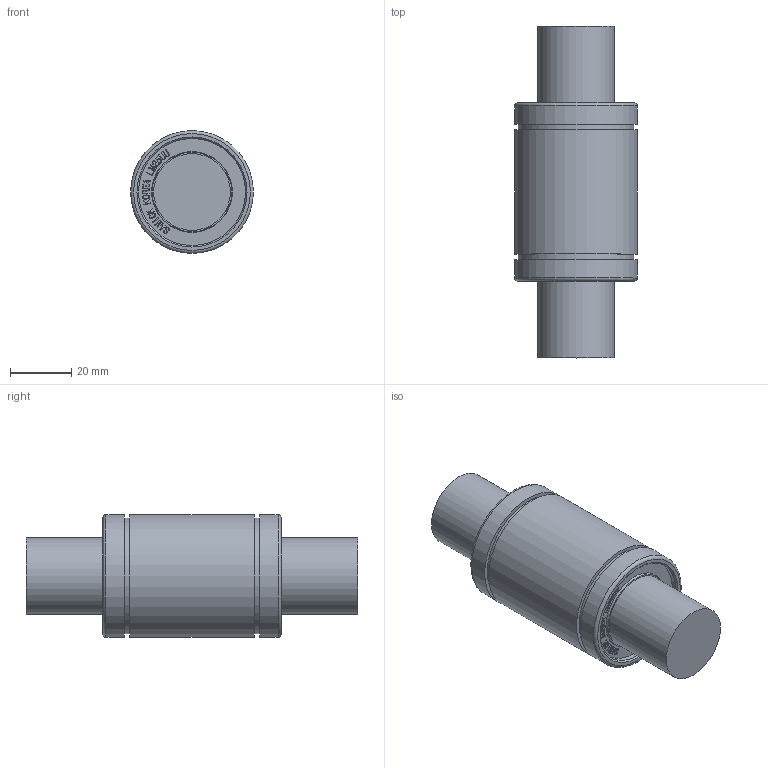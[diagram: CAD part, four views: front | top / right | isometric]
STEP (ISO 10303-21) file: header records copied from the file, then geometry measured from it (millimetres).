
FILE_DESCRIPTION(/* description */ (''),/* implementation_level */ '2;1');
FILE_NAME(/* name */ 'W:\(01) 2024년 홈페이지 CAD파일 최신화\LME\IPT\LME25UU.stp',/* time_stamp */ '2025-01-25T08:56:12+09:00',/* author */ ('서우현'),/* organization */ (''),/* preprocessor_version */ 'ST-DEVELOPER v17.2',/* originating_system */ 'Autodesk Inventor 2019',/* authorisation */ '');
FILE_SCHEMA (('AUTOMOTIVE_DESIGN { 1 0 10303 214 3 1 1 }'));
Length unit declared in the file: millimetre
Products named in the file (1): LM5
Bounding box: 40 x 108 x 40 mm (x, y, z)
Volume: 94925.1 mm3; surface area: 14939.2 mm2
Topology: 1 solids, 1 shells, 859 faces, 2437 edges, 1632 vertices
Faces by surface type: bspline 612, plane 232, cylinder 9, cone 4, torus 2
Full cylindrical faces by diameter (mm): 25 x2, 34.8 x2, 37.5 x2, 40 x3
Entity records: 29459 total; most frequent: CARTESIAN_POINT 10437, ORIENTED_EDGE 4874, EDGE_CURVE 2437, DIRECTION 1763, VERTEX_POINT 1632, B_SPLINE_CURVE_WITH_KNOTS 1224, LINE 1159, VECTOR 1159
